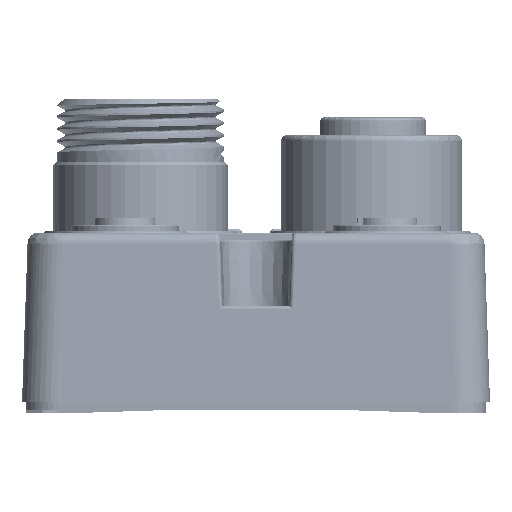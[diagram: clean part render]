
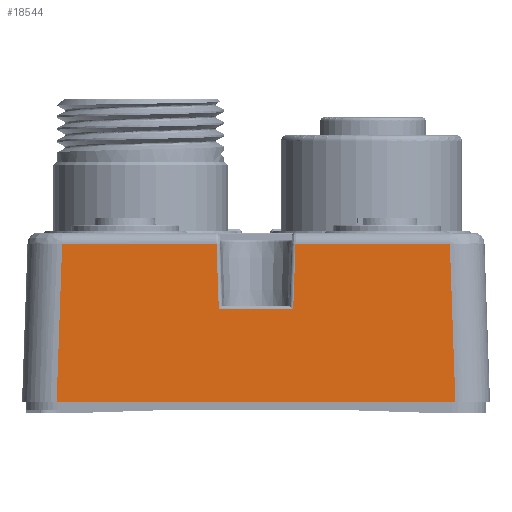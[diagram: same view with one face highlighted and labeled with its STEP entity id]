
A CAD part, front view. The second image highlights one B-rep face of the part: STEP entity #18544.
In plain terms, the highlighted planar face has unit normal (0, -0.999, 0.035).
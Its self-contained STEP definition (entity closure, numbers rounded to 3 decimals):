
#5809=FACE_OUTER_BOUND('',#25802,.T.);
#9547=LINE('',#96717,#13984);
#9548=LINE('',#96779,#13985);
#9664=LINE('',#98461,#14105);
#9665=LINE('',#98463,#14106);
#9666=LINE('',#98465,#14107);
#9667=LINE('',#98466,#14108);
#9668=LINE('',#98468,#14109);
#9669=LINE('',#98470,#14110);
#13984=VECTOR('',#74623,1.);
#13985=VECTOR('',#74630,1.);
#14105=VECTOR('',#75046,1.);
#14106=VECTOR('',#75049,1.);
#14107=VECTOR('',#75050,1.);
#14108=VECTOR('',#75051,1.);
#14109=VECTOR('',#75052,1.);
#14110=VECTOR('',#75053,1.);
#18544=ADVANCED_FACE('',(#5809),#21447,.T.);
#21447=PLANE('',#65256);
#25802=EDGE_LOOP('',(#34766,#34767,#34768,#34769,#34770,#34771,#34772,#34773));
#34766=ORIENTED_EDGE('',*,*,#55130,.F.);
#34767=ORIENTED_EDGE('',*,*,#55131,.T.);
#34768=ORIENTED_EDGE('',*,*,#55132,.F.);
#34769=ORIENTED_EDGE('',*,*,#55133,.T.);
#34770=ORIENTED_EDGE('',*,*,#55134,.F.);
#34771=ORIENTED_EDGE('',*,*,#55135,.T.);
#34772=ORIENTED_EDGE('',*,*,#54892,.T.);
#34773=ORIENTED_EDGE('',*,*,#54888,.T.);
#48104=VERTEX_POINT('',#96716);
#48105=VERTEX_POINT('',#96718);
#48107=VERTEX_POINT('',#96780);
#48204=VERTEX_POINT('',#97495);
#48249=VERTEX_POINT('',#98460);
#48250=VERTEX_POINT('',#98464);
#48251=VERTEX_POINT('',#98467);
#48252=VERTEX_POINT('',#98469);
#54888=EDGE_CURVE('',#48105,#48104,#9547,.T.);
#54892=EDGE_CURVE('',#48107,#48105,#9548,.T.);
#55130=EDGE_CURVE('',#48249,#48104,#9664,.T.);
#55131=EDGE_CURVE('',#48249,#48250,#9665,.T.);
#55132=EDGE_CURVE('',#48204,#48250,#9666,.T.);
#55133=EDGE_CURVE('',#48204,#48251,#9667,.T.);
#55134=EDGE_CURVE('',#48252,#48251,#9668,.T.);
#55135=EDGE_CURVE('',#48252,#48107,#9669,.T.);
#65256=AXIS2_PLACEMENT_3D('',#98471,#75054,#75055);
#74623=DIRECTION('',(-1.,0.,0.));
#74630=DIRECTION('',(-0.035,0.035,0.999));
#75046=DIRECTION('',(0.035,0.035,0.999));
#75049=DIRECTION('',(-1.,0.,0.));
#75050=DIRECTION('',(0.035,-0.035,-0.999));
#75051=DIRECTION('',(-1.,0.,0.));
#75052=DIRECTION('',(0.035,0.035,0.999));
#75053=DIRECTION('',(1.,0.,0.));
#75054=DIRECTION('',(0.,-0.999,0.035));
#75055=DIRECTION('',(-1.,0.,0.));
#96716=CARTESIAN_POINT('',(35.131,0.333,-11.948));
#96717=CARTESIAN_POINT('',(55.169,0.333,-11.948));
#96718=CARTESIAN_POINT('',(55.169,0.333,-11.948));
#96779=CARTESIAN_POINT('',(55.887,-0.384,-32.5));
#96780=CARTESIAN_POINT('',(55.887,-0.384,-32.5));
#97495=CARTESIAN_POINT('',(24.869,0.333,-11.948));
#98460=CARTESIAN_POINT('',(34.833,0.035,-20.483));
#98461=CARTESIAN_POINT('',(34.833,0.035,-20.483));
#98463=CARTESIAN_POINT('',(34.833,0.035,-20.483));
#98464=CARTESIAN_POINT('',(25.167,0.035,-20.483));
#98465=CARTESIAN_POINT('',(24.869,0.333,-11.948));
#98466=CARTESIAN_POINT('',(24.869,0.333,-11.948));
#98467=CARTESIAN_POINT('',(4.831,0.333,-11.948));
#98468=CARTESIAN_POINT('',(4.113,-0.384,-32.5));
#98469=CARTESIAN_POINT('',(4.113,-0.384,-32.5));
#98470=CARTESIAN_POINT('',(4.113,-0.384,-32.5));
#98471=CARTESIAN_POINT('',(62.751,0.384,-10.5));
